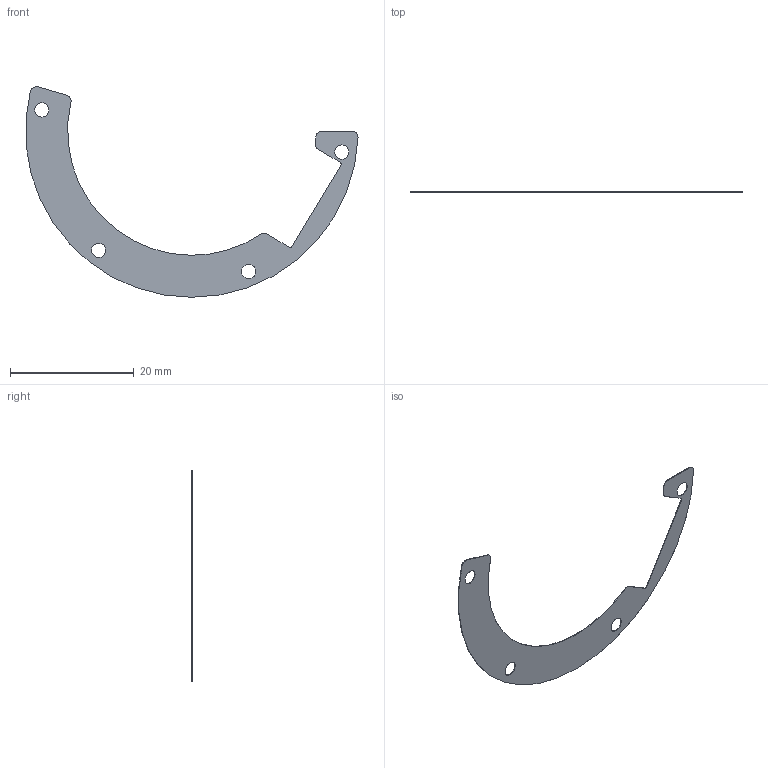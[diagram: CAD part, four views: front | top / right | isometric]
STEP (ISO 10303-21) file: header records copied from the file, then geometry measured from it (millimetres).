
FILE_DESCRIPTION (( 'STEP AP214' ), '1' );
FILE_NAME ('MN02234D02_01.STEP', '2023-12-18T13:15:59', ( '' ), ( '' ), 'SwSTEP 2.0', 'SolidWorks 2022', '' );
FILE_SCHEMA (( 'AUTOMOTIVE_DESIGN' ));
Length unit declared in the file: millimetre
Products named in the file (1): MN02234D02_01
Bounding box: 53.7 x 0.1 x 34.07 mm (x, y, z)
Volume: 46.6 mm3; surface area: 953 mm2
Topology: 1 solids, 1 shells, 29 faces, 81 edges, 54 vertices
Faces by surface type: cylinder 22, plane 7
Entity records: 1009 total; most frequent: DIRECTION 185, CARTESIAN_POINT 165, ORIENTED_EDGE 162, EDGE_CURVE 81, AXIS2_PLACEMENT_3D 74, VERTEX_POINT 54, CIRCLE 44, LINE 37
